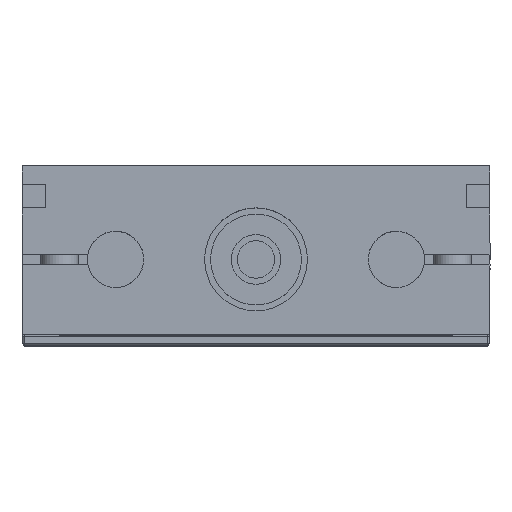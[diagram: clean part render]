
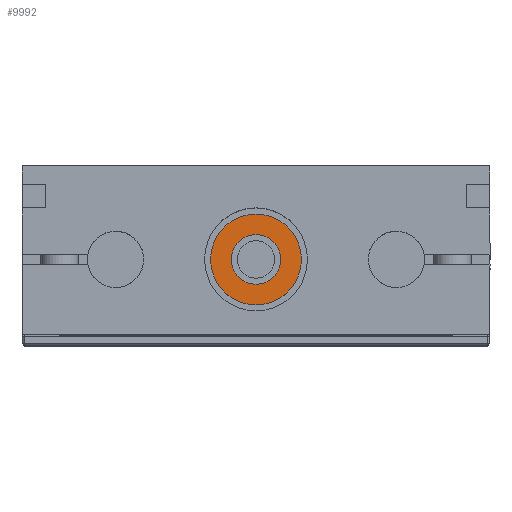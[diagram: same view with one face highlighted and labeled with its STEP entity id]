
A CAD part, top view. The second image highlights one B-rep face of the part: STEP entity #9992.
In plain terms, the highlighted planar face has unit normal (0, 0, 1) as drawn and (1, 0, 0) by its records, which use the part's own axes.
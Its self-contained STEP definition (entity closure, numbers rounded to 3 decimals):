
#1454 = CARTESIAN_POINT ( 'NONE',  ( 279.5, 20., 0. ) ) ;
#2094 = CARTESIAN_POINT ( 'NONE',  ( 279.5, 25.3, 0. ) ) ;
#2421 = ORIENTED_EDGE ( 'NONE', *, *, #38387, .T. ) ;
#2872 = EDGE_LOOP ( 'NONE', ( #2421, #16771 ) ) ;
#3894 = CARTESIAN_POINT ( 'NONE',  ( 279.5, 20., 0. ) ) ;
#5133 = AXIS2_PLACEMENT_3D ( 'NONE', #1454, #12786, #33862 ) ;
#5867 = ORIENTED_EDGE ( 'NONE', *, *, #25664, .F. ) ;
#7845 = EDGE_CURVE ( 'NONE', #40330, #21523, #15924, .T. ) ;
#9587 = DIRECTION ( 'NONE',  ( -1., 0., 0. ) ) ;
#9992 = ADVANCED_FACE ( 'NONE', ( #44010, #12969 ), #39955, .F. ) ;
#10732 = VERTEX_POINT ( 'NONE', #42965 ) ;
#10827 = AXIS2_PLACEMENT_3D ( 'NONE', #24925, #38291, #10867 ) ;
#10867 = DIRECTION ( 'NONE',  ( 0., 0., 1. ) ) ;
#11006 = DIRECTION ( 'NONE',  ( -1., 0., 0. ) ) ;
#12786 = DIRECTION ( 'NONE',  ( -1., 0., 0. ) ) ;
#12969 = FACE_BOUND ( 'NONE', #2872, .T. ) ;
#14426 = CARTESIAN_POINT ( 'NONE',  ( 279.5, 20., 5.3 ) ) ;
#14542 = DIRECTION ( 'NONE',  ( 0., 0., 1. ) ) ;
#15352 = CIRCLE ( 'NONE', #26181, 9.7 ) ;
#15924 = CIRCLE ( 'NONE', #10827, 5.3 ) ;
#16771 = ORIENTED_EDGE ( 'NONE', *, *, #7845, .T. ) ;
#20917 = EDGE_LOOP ( 'NONE', ( #26015, #5867 ) ) ;
#21523 = VERTEX_POINT ( 'NONE', #14426 ) ;
#24925 = CARTESIAN_POINT ( 'NONE',  ( 279.5, 20., 0. ) ) ;
#25664 = EDGE_CURVE ( 'NONE', #39639, #10732, #15352, .T. ) ;
#26015 = ORIENTED_EDGE ( 'NONE', *, *, #43515, .F. ) ;
#26181 = AXIS2_PLACEMENT_3D ( 'NONE', #3894, #32220, #14542 ) ;
#28459 = CARTESIAN_POINT ( 'NONE',  ( 279.5, 20., 0. ) ) ;
#28465 = AXIS2_PLACEMENT_3D ( 'NONE', #28459, #11006, #31419 ) ;
#29765 = DIRECTION ( 'NONE',  ( 0., 0., 1. ) ) ;
#31419 = DIRECTION ( 'NONE',  ( 0., 0., 1. ) ) ;
#32220 = DIRECTION ( 'NONE',  ( -1., 0., 0. ) ) ;
#32752 = CARTESIAN_POINT ( 'NONE',  ( 279.5, 20., -9.7 ) ) ;
#33862 = DIRECTION ( 'NONE',  ( 0., 0., 1. ) ) ;
#34840 = CARTESIAN_POINT ( 'NONE',  ( 279.5, 20., -5.3 ) ) ;
#37705 = CIRCLE ( 'NONE', #5133, 5.3 ) ;
#38291 = DIRECTION ( 'NONE',  ( -1., 0., 0. ) ) ;
#38387 = EDGE_CURVE ( 'NONE', #21523, #40330, #37705, .T. ) ;
#39639 = VERTEX_POINT ( 'NONE', #32752 ) ;
#39955 = PLANE ( 'NONE',  #42275 ) ;
#40330 = VERTEX_POINT ( 'NONE', #34840 ) ;
#42275 = AXIS2_PLACEMENT_3D ( 'NONE', #2094, #9587, #29765 ) ;
#42965 = CARTESIAN_POINT ( 'NONE',  ( 279.5, 20., 9.7 ) ) ;
#43515 = EDGE_CURVE ( 'NONE', #10732, #39639, #44350, .T. ) ;
#44010 = FACE_OUTER_BOUND ( 'NONE', #20917, .T. ) ;
#44350 = CIRCLE ( 'NONE', #28465, 9.7 ) ;
